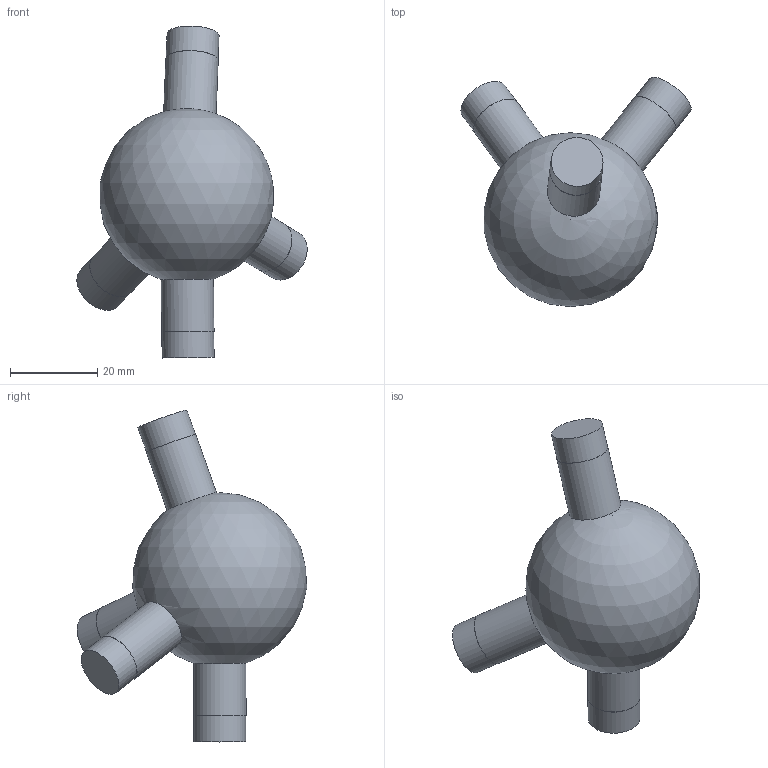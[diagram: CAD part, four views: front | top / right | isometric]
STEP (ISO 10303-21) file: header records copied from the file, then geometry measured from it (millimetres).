
FILE_DESCRIPTION(('Open CASCADE Model'),'2;1');
FILE_NAME('Open CASCADE Shape Model','2026-10-21T12:47:57',('Author'),( 'Open CASCADE'),'Open CASCADE STEP processor 7.9','Open CASCADE 7.9' ,'Unknown');
FILE_SCHEMA(('AUTOMOTIVE_DESIGN { 1 0 10303 214 1 1 1 1 }'));
Length unit declared in the file: millimetre
Products named in the file (1): Open CASCADE STEP translator 7.9 84
Bounding box: 52.72 x 52.53 x 76.01 mm (x, y, z)
Volume: 42178.9 mm3; surface area: 7982.9 mm2
Topology: 1 solids, 1 shells, 17 faces, 27 edges, 18 vertices
Faces by surface type: cylinder 8, plane 8, sphere 1
Full cylindrical faces by diameter (mm): 11.9 x4, 12 x4
Entity records: 1017 total; most frequent: CARTESIAN_POINT 399, DIRECTION 127, ORIENTED_EDGE 52, PCURVE 52, DEFINITIONAL_REPRESENTATION 52, LINE 43, VECTOR 43, AXIS2_PLACEMENT_3D 36
